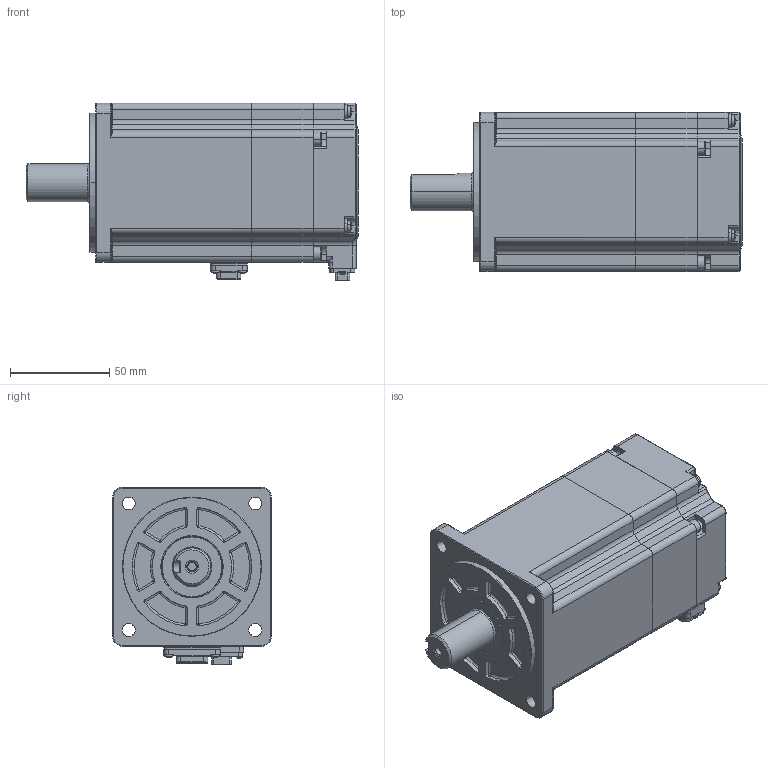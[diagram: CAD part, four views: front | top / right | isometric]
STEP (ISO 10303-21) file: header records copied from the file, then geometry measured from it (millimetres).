
FILE_DESCRIPTION(('FreeCAD Model'),'2;1');
FILE_NAME('Open CASCADE Shape Model','2025-03-17T14:06:04',('Author'),( ''),'Open CASCADE STEP processor 7.6','FreeCAD','Unknown');
FILE_SCHEMA(('AUTOMOTIVE_DESIGN { 1 0 10303 214 1 1 1 1 }'));
Length unit declared in the file: millimetre
Products named in the file (33): PSM6S-80CS30BZ3-20P7; PSM6S-80CS30BZ3-20P008; PSM6S-80CS30BZ3-20P009; PSM6S-80CS30BZ3-20P010; PSM6S-80CS30BZ3-20P011; PSM6S-80CS30BZ3-20P012; PSM6S-80CS30BZ3-20P013; PSM6S-80CS30BZ3-20P014; PSM6S-80CS30BZ3-20P015; PSM6S-80CS30BZ3-20P016; PSM6S-80CS30BZ3-20P017; PSM6S-80CS30BZ3-20P018; PSM6S-80CS30BZ3-20P019; PSM6S-80CS30BZ3-20P020; PSM6S-80CS30BZ3-20P021; PSM6S-80CS30BZ3-20P022; PSM6S-80CS30BZ3-20P023; PSM6S-80CS30BZ3-20P024; PSM6S-80CS30BZ3-20P025; PSM6S-80CS30BZ3-20P026; PSM6S-80CS30BZ3-20P027; PSM6S-80CS30BZ3-20P028; PSM6S-80CS30BZ3-20P029; PSM6S-80CS30BZ3-20P030; PSM6S-80CS30BZ3-20P031; PSM6S-80CS30BZ3-20P032; PSM6S-80CS30BZ3-20P033; PSM6S-80CS30BZ3-20P034; PSM6S-80CS30BZ3-20P035; PSM6S-80CS30BZ3-20P036; PSM6S-80CS30BZ3-20P037; PSM6S-80CS30BZ3-20P038; PSM6S-80CS30BZ3-20P039
Assembly tree (32 placements, depth 2):
  PSM6S-80CS30BZ3-20P7
    PSM6S-80CS30BZ3-20P008
    PSM6S-80CS30BZ3-20P009
    PSM6S-80CS30BZ3-20P010
    PSM6S-80CS30BZ3-20P011
    PSM6S-80CS30BZ3-20P012
    PSM6S-80CS30BZ3-20P013
    PSM6S-80CS30BZ3-20P014
    PSM6S-80CS30BZ3-20P015
    PSM6S-80CS30BZ3-20P016
    PSM6S-80CS30BZ3-20P017
    PSM6S-80CS30BZ3-20P018
    PSM6S-80CS30BZ3-20P019
    PSM6S-80CS30BZ3-20P020
    PSM6S-80CS30BZ3-20P021
    PSM6S-80CS30BZ3-20P022
    PSM6S-80CS30BZ3-20P023
    PSM6S-80CS30BZ3-20P024
    PSM6S-80CS30BZ3-20P025
    PSM6S-80CS30BZ3-20P026
    PSM6S-80CS30BZ3-20P027
    PSM6S-80CS30BZ3-20P028
    PSM6S-80CS30BZ3-20P029
    PSM6S-80CS30BZ3-20P030
    PSM6S-80CS30BZ3-20P031
    PSM6S-80CS30BZ3-20P032
    PSM6S-80CS30BZ3-20P033
    PSM6S-80CS30BZ3-20P034
    PSM6S-80CS30BZ3-20P035
    PSM6S-80CS30BZ3-20P036
    PSM6S-80CS30BZ3-20P037
    PSM6S-80CS30BZ3-20P038
    PSM6S-80CS30BZ3-20P039
Bounding box: 167.1 x 80 x 89.3 mm (x, y, z)
Surface area: 62003.6 mm2 (no closed solid volume)
Topology: 0 solids, 32 shells, 878 faces, 2800 edges, 1897 vertices
Faces by surface type: plane 378, cylinder 315, torus 92, sphere 44, cone 27, bspline 18, revolution 4
Entity records: 32632 total; most frequent: CARTESIAN_POINT 6883, DIRECTION 5634, ORIENTED_EDGE 4563, EDGE_CURVE 2779, AXIS2_PLACEMENT_3D 2030, VERTEX_POINT 1897, LINE 1570, VECTOR 1570
